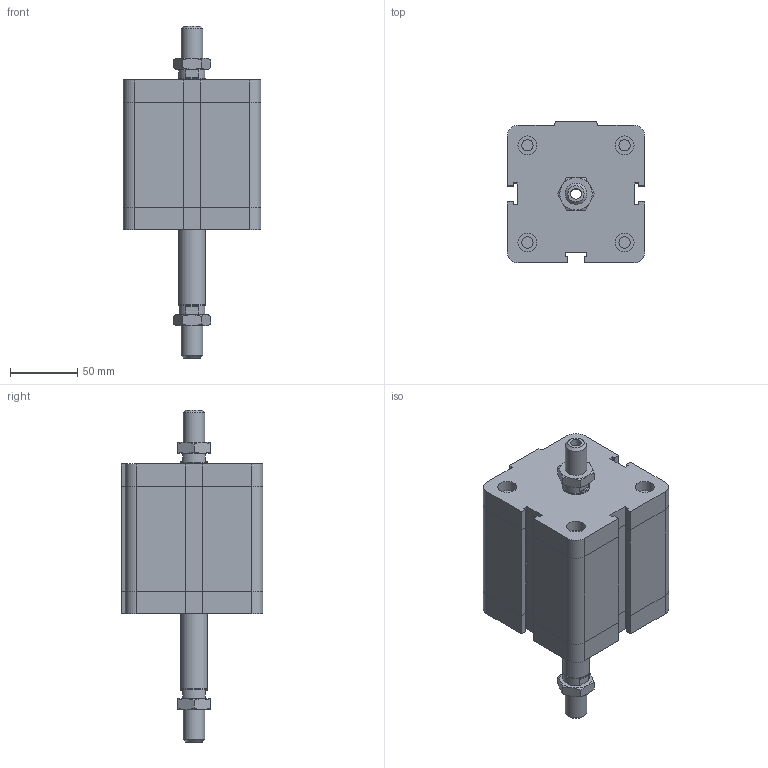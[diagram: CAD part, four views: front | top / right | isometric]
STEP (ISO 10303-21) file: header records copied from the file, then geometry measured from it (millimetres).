
FILE_DESCRIPTION((''),'2;1');
FILE_NAME('I:\Area Tecnica\Disegni\VARIE-3D\Componenti\EUROPE\15##_###_####_05_#\1561_80_0055_05_1.iam.stp','2009-04-20T14:57:47',(''),(''),'Autodesk Inventor 2009','Autodesk Inventor 2009','');
FILE_SCHEMA(('AUTOMOTIVE_DESIGN { 1 0 10303 214 1 1 1 1 }'));
Length unit declared in the file: millimetre
Products named in the file (4): 1561_80_0055_05_1; 1561_80_0055_03_1_C; 1561_80_0055_05_1_S; DBFM16
Assembly tree (4 placements, depth 2):
  1561_80_0055_05_1
    1561_80_0055_03_1_C
    1561_80_0055_05_1_S
    DBFM16  x2
Bounding box: 102 x 105 x 246 mm (x, y, z)
Volume: 1133577.9 mm3; surface area: 109613.1 mm2
Topology: 4 solids, 4 shells, 223 faces, 486 edges, 291 vertices
Faces by surface type: plane 129, cone 37, bspline 32, cylinder 25
Full cylindrical faces by diameter (mm): 8.376 x4, 14 x4, 14.5 x1, 16 x1, 19.5 x2, 20 x1
Entity records: 5484 total; most frequent: CARTESIAN_POINT 1227, DIRECTION 808, ORIENTED_EDGE 776, EDGE_CURVE 388, AXIS2_PLACEMENT_3D 275, EDGE_LOOP 262, VECTOR 258, LINE 258
